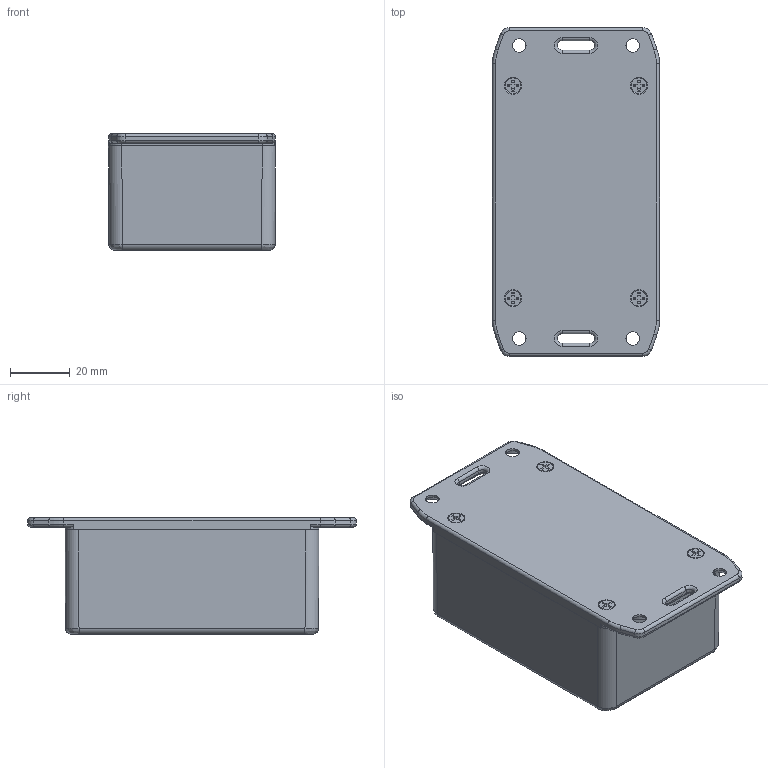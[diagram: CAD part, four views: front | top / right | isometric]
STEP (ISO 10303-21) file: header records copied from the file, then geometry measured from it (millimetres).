
FILE_DESCRIPTION(/* description */ (''),/* implementation_level */ '2;1');
FILE_NAME(/* name */ 'E:\Eng\Customer Service\Drawings\1591\3D Files\1591L\1591LFL\1591LSFL.stp',/* time_stamp */ '2019-04-25T15:13:41-04:00',/* author */ ('mbeerman'),/* organization */ (''),/* preprocessor_version */ 'ST-DEVELOPER v17.2',/* originating_system */ 'Autodesk Inventor 2019',/* authorisation */ '');
FILE_SCHEMA (('AUTOMOTIVE_DESIGN { 1 0 10303 214 3 1 1 }'));
Products named in the file (4): 1591ASFL; 1591LS Box; 1591L-M Flange Lid; #26448
Assembly tree (2 placements, depth 2):
  1591ASFL
    1591LS Box
    1591L-M Flange Lid
  #26448
Bounding box: 56 x 110.08 x 39.1 mm (x, y, z)
Volume: 53556.8 mm3; surface area: 49583 mm2
Topology: 6 solids, 6 shells, 836 faces, 2213 edges, 1430 vertices
Faces by surface type: plane 426, cylinder 130, cone 128, bspline 112, torus 40
Full cylindrical faces by diameter (mm): 2.36 x8, 2.946 x4, 5.232 x4
Entity records: 26413 total; most frequent: CARTESIAN_POINT 8189, ORIENTED_EDGE 3982, DIRECTION 3427, EDGE_CURVE 1991, VERTEX_POINT 1280, LINE 1165, VECTOR 1165, AXIS2_PLACEMENT_3D 1131
